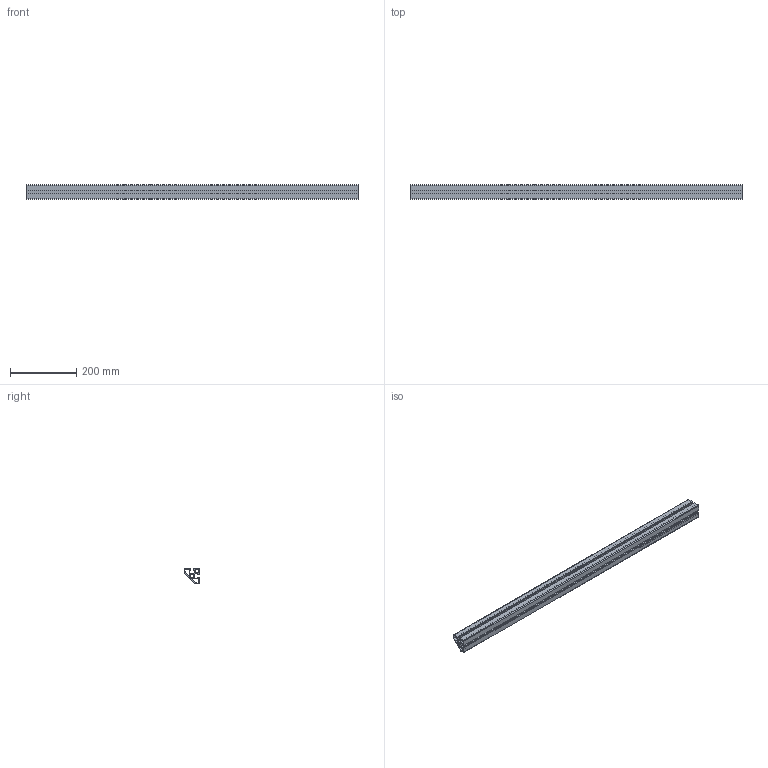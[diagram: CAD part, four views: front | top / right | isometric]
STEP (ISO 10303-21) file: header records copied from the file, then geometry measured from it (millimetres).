
FILE_DESCRIPTION (( 'STEP AP214' ), '1' );
FILE_NAME ('1.0215 45 - 45 musta 1000mm.STEP', '2026-03-18T07:14:14', ( '' ), ( '' ), 'SwSTEP 2.0', 'SolidWorks 2025', '' );
FILE_SCHEMA (( 'AUTOMOTIVE_DESIGN' ));
Length unit declared in the file: millimetre
Products named in the file (1): 1.0215 45 - 45 musta 1000mm
Bounding box: 1000 x 45 x 45 mm (x, y, z)
Volume: 566816 mm3; surface area: 439916.5 mm2
Topology: 1 solids, 1 shells, 109 faces, 321 edges, 214 vertices
Faces by surface type: cylinder 60, plane 49
Entity records: 3714 total; most frequent: DIRECTION 661, CARTESIAN_POINT 645, ORIENTED_EDGE 642, EDGE_CURVE 321, AXIS2_PLACEMENT_3D 230, VERTEX_POINT 214, VECTOR 201, LINE 201
